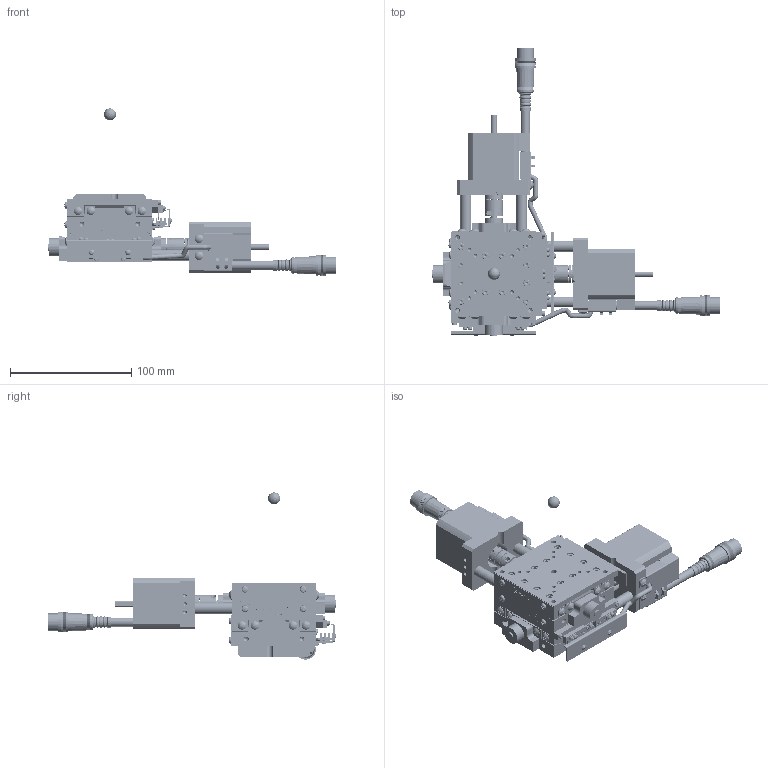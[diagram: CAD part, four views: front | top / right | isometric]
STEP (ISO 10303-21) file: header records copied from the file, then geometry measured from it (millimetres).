
FILE_DESCRIPTION (( 'STEP AP203' ), '1' );
FILE_NAME ('SA07A-RS02-RRR.STEP', '2019-02-27T04:09:54', ( '' ), ( '' ), 'SwSTEP 2.0', 'SolidWorks 2018', '' );
FILE_SCHEMA (( 'CONFIG_CONTROL_DESIGN' ));
Length unit declared in the file: millimetre
Products named in the file (11): second table-Part-3; second table-Part-1; base-Part-3; second table; base; rotation center; second table-Part-2; SA07A-RS02-RRR; base-Part-2; base-Part-1; table
Assembly tree (10 placements, depth 3):
  SA07A-RS02-RRR
    second table
      second table-Part-1
      second table-Part-2
      second table-Part-3
    base
      base-Part-1
      base-Part-2
      base-Part-3
    table
    rotation center
Bounding box: 237.5 x 237.68 x 138 mm (x, y, z)
Volume: 501232.1 mm3; surface area: 146228.4 mm2
Topology: 8 solids, 8 shells, 5467 faces, 13912 edges, 8661 vertices
Faces by surface type: plane 3270, cylinder 1363, cone 564, torus 164, sphere 94, bspline 12
Entity records: 169005 total; most frequent: CARTESIAN_POINT 33428, DIRECTION 29089, ORIENTED_EDGE 27414, EDGE_CURVE 13707, AXIS2_PLACEMENT_3D 10228, VERTEX_POINT 8646, LINE 8633, VECTOR 8633
